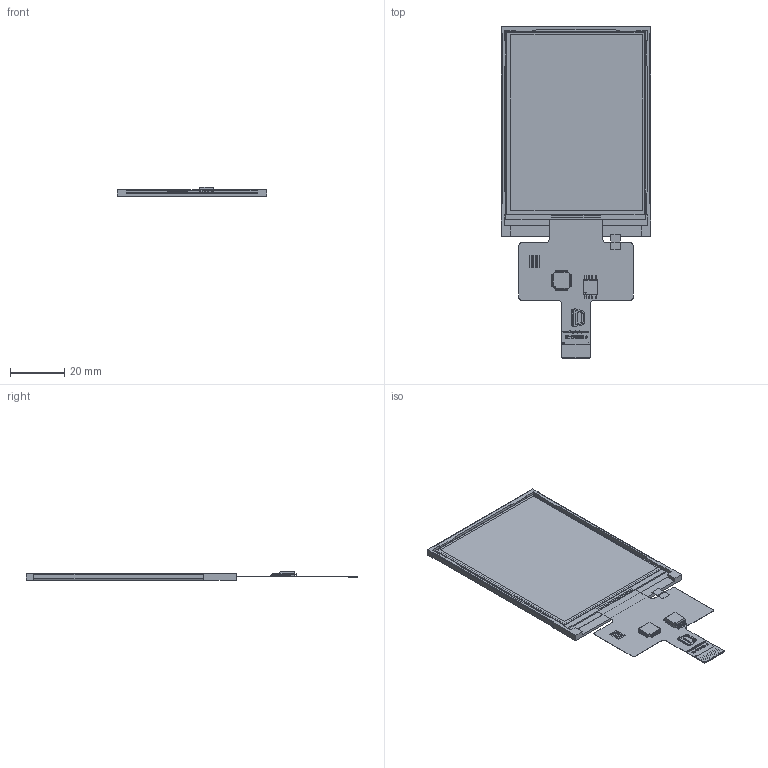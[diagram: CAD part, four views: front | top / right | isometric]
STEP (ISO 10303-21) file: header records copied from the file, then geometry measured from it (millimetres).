
FILE_DESCRIPTION (( 'STEP AP214' ), '1' );
FILE_NAME ('ER-TFTS032-3.STEP', '2024-06-13T01:18:57', ( '微软用户' ), ( '微软中国' ), 'SwSTEP 2.0', 'SolidWorks 2023', '' );
FILE_SCHEMA (( 'AUTOMOTIVE_DESIGN' ));
Length unit declared in the file: millimetre
Products named in the file (1): ER-TFTS032-3
Bounding box: 55.04 x 122.42 x 3.33 mm (x, y, z)
Volume: 9272.7 mm3; surface area: 19776.9 mm2
Topology: 57 solids, 57 shells, 1855 faces, 4970 edges, 3298 vertices
Faces by surface type: plane 1267, cylinder 328, bspline 258, cone 2
Entity records: 74957 total; most frequent: CARTESIAN_POINT 24118, ORIENTED_EDGE 9940, DIRECTION 8310, EDGE_CURVE 4970, LINE 3794, VECTOR 3794, VERTEX_POINT 3298, AXIS2_PLACEMENT_3D 2258
